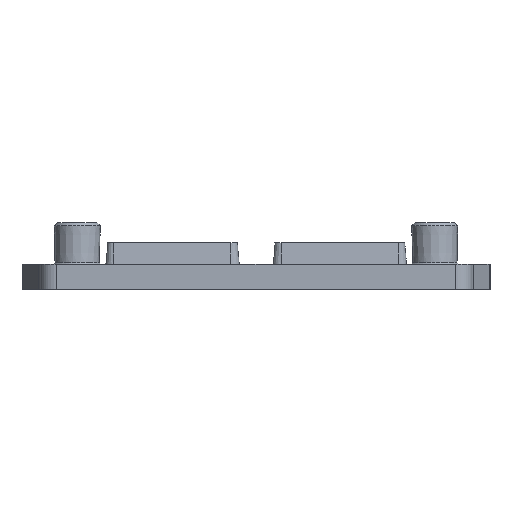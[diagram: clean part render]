
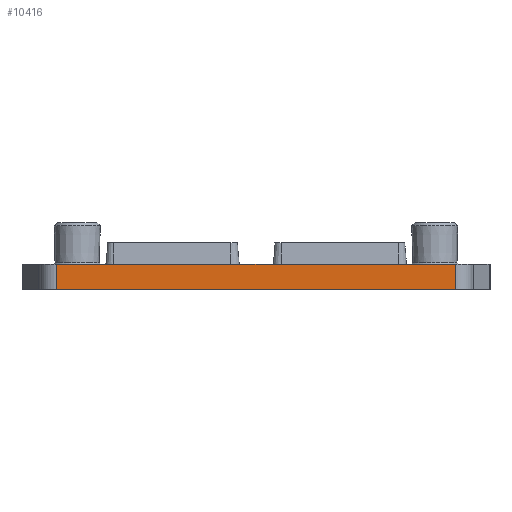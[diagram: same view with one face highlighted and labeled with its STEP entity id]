
A CAD part, front view. The second image highlights one B-rep face of the part: STEP entity #10416.
In plain terms, the highlighted planar face has unit normal (0, -1, 0).
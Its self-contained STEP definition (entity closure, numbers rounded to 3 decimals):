
#190=DIRECTION('',(1.,0.,0.));
#191=VECTOR('',#190,23.8);
#192=CARTESIAN_POINT('',(-11.9,-16.75,0.));
#193=LINE('',#192,#191);
#194=DIRECTION('',(0.,0.,1.));
#195=VECTOR('',#194,1.5);
#196=CARTESIAN_POINT('',(-11.9,-16.75,-1.5));
#197=LINE('',#196,#195);
#198=DIRECTION('',(0.,0.,1.));
#199=VECTOR('',#198,1.5);
#200=CARTESIAN_POINT('',(11.9,-16.75,-1.5));
#201=LINE('',#200,#199);
#290=DIRECTION('',(1.,0.,0.));
#291=VECTOR('',#290,23.8);
#292=CARTESIAN_POINT('',(-11.9,-16.75,-1.5));
#293=LINE('',#292,#291);
#7642=CARTESIAN_POINT('',(-11.9,-16.75,0.));
#7643=CARTESIAN_POINT('',(11.9,-16.75,0.));
#7644=VERTEX_POINT('',#7642);
#7645=VERTEX_POINT('',#7643);
#7768=CARTESIAN_POINT('',(-11.9,-16.75,-1.5));
#7769=VERTEX_POINT('',#7768);
#7770=CARTESIAN_POINT('',(11.9,-16.75,-1.5));
#7771=VERTEX_POINT('',#7770);
#10403=CARTESIAN_POINT('',(0.,-16.75,-0.75));
#10404=DIRECTION('',(0.,1.,0.));
#10405=DIRECTION('',(-1.,0.,0.));
#10406=AXIS2_PLACEMENT_3D('',#10403,#10404,#10405);
#10407=PLANE('',#10406);
#10408=ORIENTED_EDGE('',*,*,#10123,.T.);
#10410=ORIENTED_EDGE('',*,*,#10409,.F.);
#10412=ORIENTED_EDGE('',*,*,#10411,.F.);
#10413=ORIENTED_EDGE('',*,*,#10396,.T.);
#10414=EDGE_LOOP('',(#10408,#10410,#10412,#10413));
#10415=FACE_OUTER_BOUND('',#10414,.F.);
#10416=ADVANCED_FACE('',(#10415),#10407,.F.);
#10123=EDGE_CURVE('',#7644,#7645,#193,.T.);
#10396=EDGE_CURVE('',#7769,#7644,#197,.T.);
#10409=EDGE_CURVE('',#7771,#7645,#201,.T.);
#10411=EDGE_CURVE('',#7769,#7771,#293,.T.);
